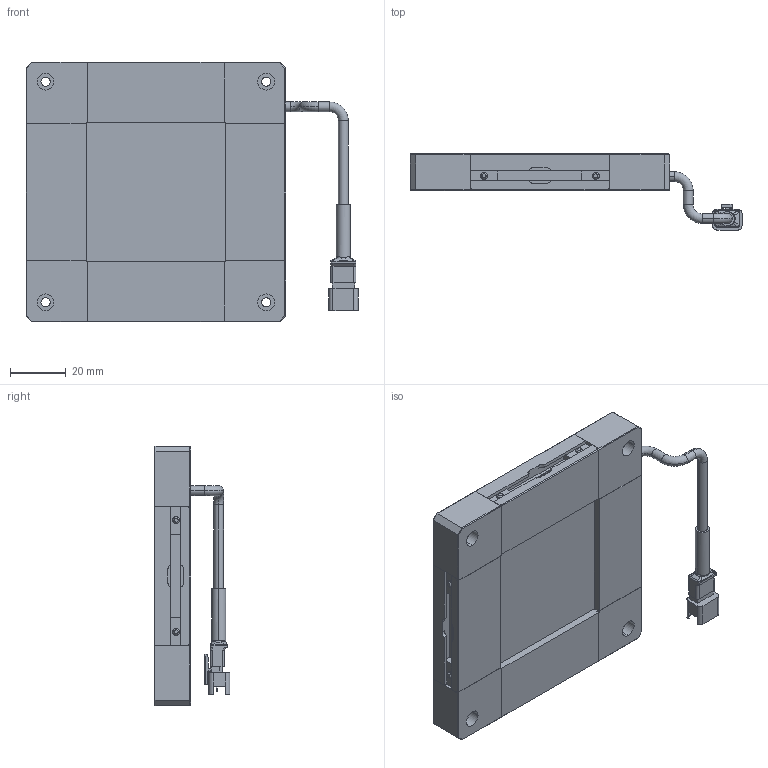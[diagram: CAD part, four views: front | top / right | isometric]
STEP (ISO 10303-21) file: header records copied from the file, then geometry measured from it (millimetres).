
FILE_DESCRIPTION (( 'STEP AP203' ), '1' );
FILE_NAME ('UA23065.STEP', '2020-12-16T06:32:58', ( 'CCS' ), ( 'シーシーエス株式会社' ), 'SwSTEP 2.0', 'SolidWorks 2017', '' );
FILE_SCHEMA (( 'CONFIG_CONTROL_DESIGN' ));
Length unit declared in the file: millimetre
Products named in the file (1): UA23065
Bounding box: 118.85 x 27.1 x 93 mm (x, y, z)
Surface area: 33226.9 mm2 (no closed solid volume)
Topology: 0 solids, 24 shells, 529 faces, 1632 edges, 1128 vertices
Faces by surface type: plane 336, cylinder 106, bspline 43, cone 30, torus 14
Entity records: 19624 total; most frequent: CARTESIAN_POINT 5359, DIRECTION 2837, ORIENTED_EDGE 2718, EDGE_CURVE 1632, LINE 1211, VECTOR 1211, VERTEX_POINT 1128, AXIS2_PLACEMENT_3D 813
